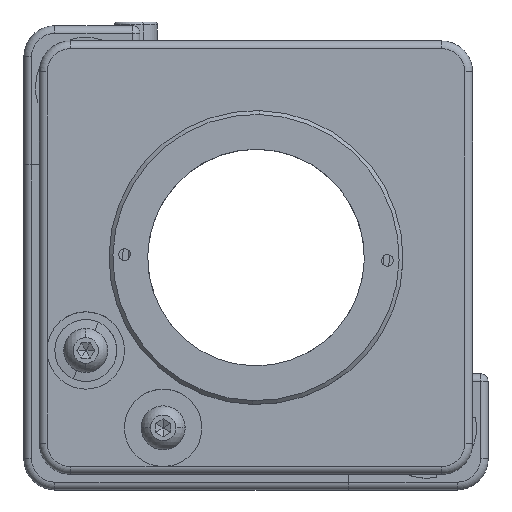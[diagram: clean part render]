
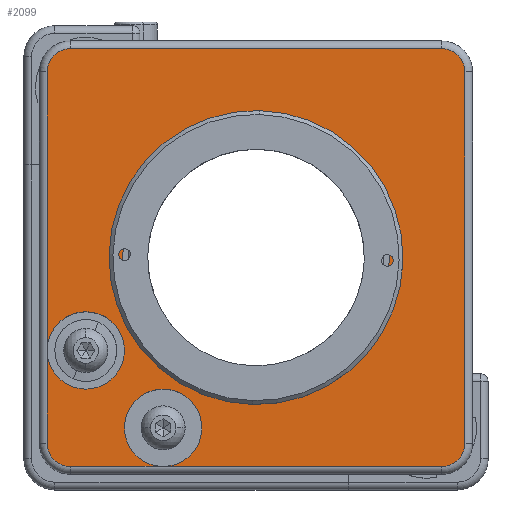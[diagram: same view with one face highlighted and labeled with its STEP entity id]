
A CAD part, top view. The second image highlights one B-rep face of the part: STEP entity #2099.
In plain terms, the highlighted planar face has unit normal (0, 0, 1).
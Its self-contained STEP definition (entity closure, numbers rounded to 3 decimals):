
#78 = VERTEX_POINT ( 'NONE', #739 ) ;
#108 = CARTESIAN_POINT ( 'NONE',  ( -1.69, -30.329, 4. ) ) ;
#127 = LINE ( 'NONE', #1171, #9484 ) ;
#170 = ORIENTED_EDGE ( 'NONE', *, *, #8843, .T. ) ;
#341 = VERTEX_POINT ( 'NONE', #108 ) ;
#374 = VERTEX_POINT ( 'NONE', #3752 ) ;
#482 = CARTESIAN_POINT ( 'NONE',  ( -16.69, -27.329, 4. ) ) ;
#524 = ORIENTED_EDGE ( 'NONE', *, *, #3889, .T. ) ;
#549 = VERTEX_POINT ( 'NONE', #3709 ) ;
#581 = ORIENTED_EDGE ( 'NONE', *, *, #3544, .F. ) ;
#646 = CARTESIAN_POINT ( 'NONE',  ( -16.69, -27.329, 4. ) ) ;
#660 = CIRCLE ( 'NONE', #4061, 5. ) ;
#739 = CARTESIAN_POINT ( 'NONE',  ( -16.69, 20.671, 4. ) ) ;
#743 = EDGE_CURVE ( 'NONE', #9623, #8596, #7023, .T. ) ;
#807 = LINE ( 'NONE', #3284, #5355 ) ;
#1171 = CARTESIAN_POINT ( 'NONE',  ( -13.69, 23.671, 4. ) ) ;
#1205 = ORIENTED_EDGE ( 'NONE', *, *, #11009, .F. ) ;
#1259 = DIRECTION ( 'NONE',  ( 0., 0., 1. ) ) ;
#1284 = CARTESIAN_POINT ( 'NONE',  ( -13.69, -30.329, 4. ) ) ;
#1425 = EDGE_LOOP ( 'NONE', ( #2499, #9588, #10443, #7693, #581, #5266, #7444, #170, #2670, #11352, #524, #1446, #4011, #1205, #2689 ) ) ;
#1446 = ORIENTED_EDGE ( 'NONE', *, *, #10475, .T. ) ;
#1708 = LINE ( 'NONE', #646, #4443 ) ;
#1833 = CARTESIAN_POINT ( 'NONE',  ( -1.69, -25.329, 4. ) ) ;
#2001 = CIRCLE ( 'NONE', #2313, 5. ) ;
#2099 = ADVANCED_FACE ( 'NONE', ( #10622, #3680 ), #10682, .T. ) ;
#2313 = AXIS2_PLACEMENT_3D ( 'NONE', #2420, #8788, #3335 ) ;
#2330 = CARTESIAN_POINT ( 'NONE',  ( 10.31, -3.329, 4. ) ) ;
#2420 = CARTESIAN_POINT ( 'NONE',  ( -1.69, -25.329, 4. ) ) ;
#2439 = VERTEX_POINT ( 'NONE', #10926 ) ;
#2495 = CARTESIAN_POINT ( 'NONE',  ( -17.69, -31.329, 4. ) ) ;
#2499 = ORIENTED_EDGE ( 'NONE', *, *, #11761, .T. ) ;
#2551 = CIRCLE ( 'NONE', #3083, 3. ) ;
#2670 = ORIENTED_EDGE ( 'NONE', *, *, #7701, .T. ) ;
#2688 = DIRECTION ( 'NONE',  ( 0., 0., 1. ) ) ;
#2689 = ORIENTED_EDGE ( 'NONE', *, *, #3468, .T. ) ;
#2691 = EDGE_CURVE ( 'NONE', #3563, #374, #127, .T. ) ;
#2748 = DIRECTION ( 'NONE',  ( 1., 0., 0. ) ) ;
#2767 = CIRCLE ( 'NONE', #5969, 5. ) ;
#2795 = CARTESIAN_POINT ( 'NONE',  ( -6.94, -3.329, 4. ) ) ;
#3054 = EDGE_CURVE ( 'NONE', #4157, #549, #5785, .T. ) ;
#3083 = AXIS2_PLACEMENT_3D ( 'NONE', #9917, #4502, #10835 ) ;
#3090 = CARTESIAN_POINT ( 'NONE',  ( -11.69, -15.329, 4. ) ) ;
#3249 = DIRECTION ( 'NONE',  ( 1., 0., 0. ) ) ;
#3284 = CARTESIAN_POINT ( 'NONE',  ( 37.31, 20.671, 4. ) ) ;
#3320 = CARTESIAN_POINT ( 'NONE',  ( -11.69, -15.329, 4. ) ) ;
#3335 = DIRECTION ( 'NONE',  ( 1., 0., 0. ) ) ;
#3452 = EDGE_CURVE ( 'NONE', #3887, #341, #2001, .T. ) ;
#3468 = EDGE_CURVE ( 'NONE', #8733, #9797, #1708, .T. ) ;
#3542 = ORIENTED_EDGE ( 'NONE', *, *, #743, .F. ) ;
#3544 = EDGE_CURVE ( 'NONE', #341, #11579, #5700, .T. ) ;
#3563 = VERTEX_POINT ( 'NONE', #10895 ) ;
#3621 = EDGE_LOOP ( 'NONE', ( #4889, #3542 ) ) ;
#3680 = FACE_BOUND ( 'NONE', #3621, .T. ) ;
#3709 = CARTESIAN_POINT ( 'NONE',  ( 37.31, -27.329, 4. ) ) ;
#3744 = AXIS2_PLACEMENT_3D ( 'NONE', #3968, #10297, #4888 ) ;
#3752 = CARTESIAN_POINT ( 'NONE',  ( -13.69, 23.671, 4. ) ) ;
#3880 = DIRECTION ( 'NONE',  ( 1., 0., 0. ) ) ;
#3887 = VERTEX_POINT ( 'NONE', #7170 ) ;
#3889 = EDGE_CURVE ( 'NONE', #374, #78, #2551, .T. ) ;
#3968 = CARTESIAN_POINT ( 'NONE',  ( 34.31, 20.671, 4. ) ) ;
#4011 = ORIENTED_EDGE ( 'NONE', *, *, #8690, .F. ) ;
#4024 = DIRECTION ( 'NONE',  ( 1., 0., 0. ) ) ;
#4061 = AXIS2_PLACEMENT_3D ( 'NONE', #3090, #9449, #4024 ) ;
#4064 = DIRECTION ( 'NONE',  ( 0., 0., 1. ) ) ;
#4070 = VECTOR ( 'NONE', #5223, 1000. ) ;
#4157 = VERTEX_POINT ( 'NONE', #10299 ) ;
#4188 = VERTEX_POINT ( 'NONE', #1284 ) ;
#4234 = DIRECTION ( 'NONE',  ( 0., -1., 0. ) ) ;
#4263 = DIRECTION ( 'NONE',  ( 1., 0., 0. ) ) ;
#4393 = VECTOR ( 'NONE', #3880, 1000. ) ;
#4443 = VECTOR ( 'NONE', #4234, 1000. ) ;
#4502 = DIRECTION ( 'NONE',  ( 0., 0., 1. ) ) ;
#4645 = AXIS2_PLACEMENT_3D ( 'NONE', #9492, #4064, #10391 ) ;
#4695 = DIRECTION ( 'NONE',  ( 0., 0., 1. ) ) ;
#4888 = DIRECTION ( 'NONE',  ( 1., 0., 0. ) ) ;
#4889 = ORIENTED_EDGE ( 'NONE', *, *, #10945, .F. ) ;
#4906 = CIRCLE ( 'NONE', #6714, 17.25 ) ;
#5177 = CARTESIAN_POINT ( 'NONE',  ( 34.31, -30.329, 4. ) ) ;
#5223 = DIRECTION ( 'NONE',  ( 1., 0., 0. ) ) ;
#5225 = AXIS2_PLACEMENT_3D ( 'NONE', #10104, #4695, #11019 ) ;
#5256 = DIRECTION ( 'NONE',  ( 0., 0., 1. ) ) ;
#5266 = ORIENTED_EDGE ( 'NONE', *, *, #10021, .T. ) ;
#5349 = VERTEX_POINT ( 'NONE', #6877 ) ;
#5355 = VECTOR ( 'NONE', #11470, 1000. ) ;
#5659 = CARTESIAN_POINT ( 'NONE',  ( 27.56, -3.329, 4. ) ) ;
#5700 = CIRCLE ( 'NONE', #8418, 5. ) ;
#5785 = CIRCLE ( 'NONE', #6446, 3. ) ;
#5969 = AXIS2_PLACEMENT_3D ( 'NONE', #6698, #1259, #7608 ) ;
#6181 = CARTESIAN_POINT ( 'NONE',  ( 3.31, -25.329, 4. ) ) ;
#6446 = AXIS2_PLACEMENT_3D ( 'NONE', #8123, #2688, #9051 ) ;
#6606 = CARTESIAN_POINT ( 'NONE',  ( 34.31, -30.329, 4. ) ) ;
#6698 = CARTESIAN_POINT ( 'NONE',  ( -1.69, -25.329, 4. ) ) ;
#6714 = AXIS2_PLACEMENT_3D ( 'NONE', #2330, #8703, #3249 ) ;
#6877 = CARTESIAN_POINT ( 'NONE',  ( 37.31, 20.671, 4. ) ) ;
#7023 = CIRCLE ( 'NONE', #4645, 17.25 ) ;
#7117 = EDGE_CURVE ( 'NONE', #4188, #341, #9213, .T. ) ;
#7170 = CARTESIAN_POINT ( 'NONE',  ( -6.69, -25.329, 4. ) ) ;
#7444 = ORIENTED_EDGE ( 'NONE', *, *, #3054, .T. ) ;
#7608 = DIRECTION ( 'NONE',  ( 1., 0., 0. ) ) ;
#7693 = ORIENTED_EDGE ( 'NONE', *, *, #10418, .F. ) ;
#7701 = EDGE_CURVE ( 'NONE', #5349, #3563, #8345, .T. ) ;
#8123 = CARTESIAN_POINT ( 'NONE',  ( 34.31, -27.329, 4. ) ) ;
#8127 = AXIS2_PLACEMENT_3D ( 'NONE', #2495, #5256, #11586 ) ;
#8184 = DIRECTION ( 'NONE',  ( 0., 0., 1. ) ) ;
#8345 = CIRCLE ( 'NONE', #3744, 3. ) ;
#8418 = AXIS2_PLACEMENT_3D ( 'NONE', #1833, #8184, #2748 ) ;
#8596 = VERTEX_POINT ( 'NONE', #5659 ) ;
#8690 = EDGE_CURVE ( 'NONE', #2439, #8733, #660, .T. ) ;
#8703 = DIRECTION ( 'NONE',  ( 0., 0., 1. ) ) ;
#8733 = VERTEX_POINT ( 'NONE', #9495 ) ;
#8788 = DIRECTION ( 'NONE',  ( 0., 0., 1. ) ) ;
#8843 = EDGE_CURVE ( 'NONE', #549, #5349, #807, .T. ) ;
#9051 = DIRECTION ( 'NONE',  ( 1., 0., 0. ) ) ;
#9157 = CIRCLE ( 'NONE', #10989, 5. ) ;
#9213 = LINE ( 'NONE', #6606, #4393 ) ;
#9441 = LINE ( 'NONE', #482, #11286 ) ;
#9449 = DIRECTION ( 'NONE',  ( 0., 0., 1. ) ) ;
#9484 = VECTOR ( 'NONE', #10253, 1000. ) ;
#9492 = CARTESIAN_POINT ( 'NONE',  ( 10.31, -3.329, 4. ) ) ;
#9495 = CARTESIAN_POINT ( 'NONE',  ( -16.69, -15.329, 4. ) ) ;
#9588 = ORIENTED_EDGE ( 'NONE', *, *, #7117, .T. ) ;
#9623 = VERTEX_POINT ( 'NONE', #2795 ) ;
#9686 = DIRECTION ( 'NONE',  ( 0., 0., 1. ) ) ;
#9797 = VERTEX_POINT ( 'NONE', #11203 ) ;
#9917 = CARTESIAN_POINT ( 'NONE',  ( -13.69, 20.671, 4. ) ) ;
#10021 = EDGE_CURVE ( 'NONE', #341, #4157, #11296, .T. ) ;
#10104 = CARTESIAN_POINT ( 'NONE',  ( -13.69, -27.329, 4. ) ) ;
#10253 = DIRECTION ( 'NONE',  ( -1., 0., 0. ) ) ;
#10297 = DIRECTION ( 'NONE',  ( 0., 0., 1. ) ) ;
#10299 = CARTESIAN_POINT ( 'NONE',  ( 34.31, -30.329, 4. ) ) ;
#10391 = DIRECTION ( 'NONE',  ( 1., 0., 0. ) ) ;
#10418 = EDGE_CURVE ( 'NONE', #11579, #3887, #2767, .T. ) ;
#10443 = ORIENTED_EDGE ( 'NONE', *, *, #3452, .F. ) ;
#10475 = EDGE_CURVE ( 'NONE', #78, #8733, #9441, .T. ) ;
#10622 = FACE_OUTER_BOUND ( 'NONE', #1425, .T. ) ;
#10682 = PLANE ( 'NONE',  #8127 ) ;
#10835 = DIRECTION ( 'NONE',  ( 1., 0., 0. ) ) ;
#10895 = CARTESIAN_POINT ( 'NONE',  ( 34.31, 23.671, 4. ) ) ;
#10926 = CARTESIAN_POINT ( 'NONE',  ( -6.69, -15.329, 4. ) ) ;
#10945 = EDGE_CURVE ( 'NONE', #8596, #9623, #4906, .T. ) ;
#10989 = AXIS2_PLACEMENT_3D ( 'NONE', #3320, #9686, #4263 ) ;
#11009 = EDGE_CURVE ( 'NONE', #8733, #2439, #9157, .T. ) ;
#11019 = DIRECTION ( 'NONE',  ( 1., 0., 0. ) ) ;
#11203 = CARTESIAN_POINT ( 'NONE',  ( -16.69, -27.329, 4. ) ) ;
#11286 = VECTOR ( 'NONE', #11467, 1000. ) ;
#11296 = LINE ( 'NONE', #5177, #4070 ) ;
#11352 = ORIENTED_EDGE ( 'NONE', *, *, #2691, .T. ) ;
#11467 = DIRECTION ( 'NONE',  ( 0., -1., 0. ) ) ;
#11470 = DIRECTION ( 'NONE',  ( 0., 1., 0. ) ) ;
#11579 = VERTEX_POINT ( 'NONE', #6181 ) ;
#11586 = DIRECTION ( 'NONE',  ( 1., 0., 0. ) ) ;
#11668 = CIRCLE ( 'NONE', #5225, 3. ) ;
#11761 = EDGE_CURVE ( 'NONE', #9797, #4188, #11668, .T. ) ;
